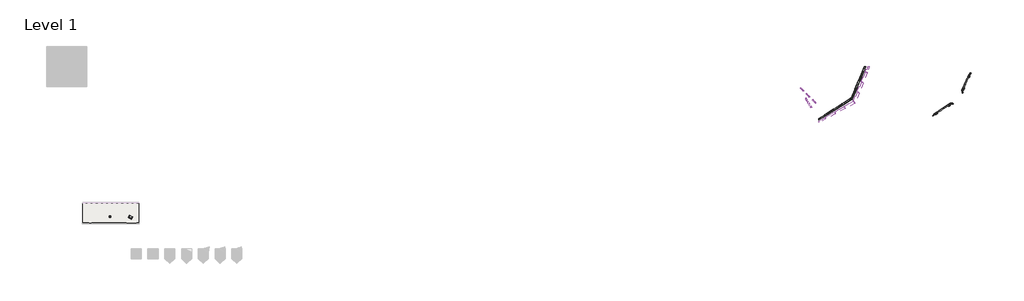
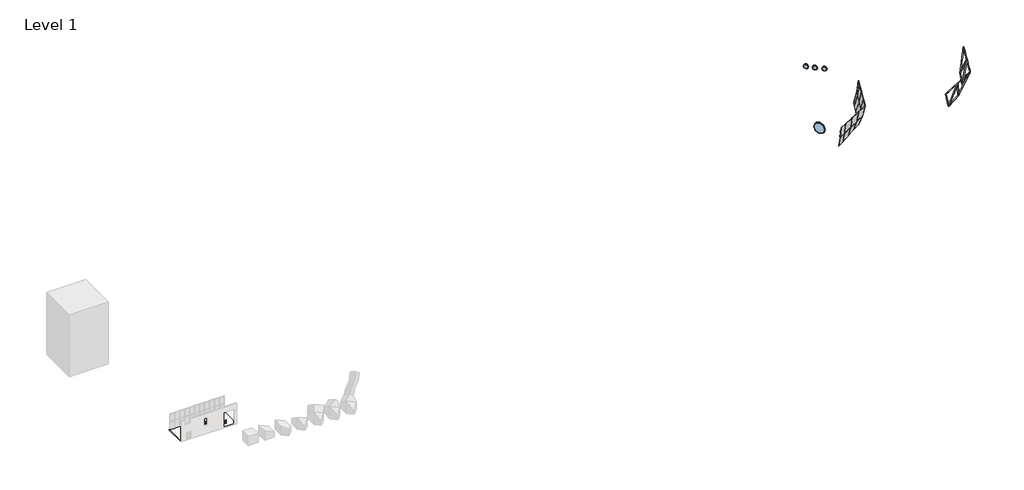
# One storey, part 2 of 4: 35 members, 22 plates, 4 windows, 1 column, 1 furniture element, 1 slab.
"""IFC4 building model written with IfcOpenShell, lengths in millimetres."""

from ifc_helpers import new_model, si_unit, frame, origin, place, context, project, spatial, polyline, outline, extrude, transform, mapped, element, save
from components import m_chair_corbu_m_chair_corbu_62085674, member_341614aa, member_344061e7, member_38109110, member_61e9d94c, member_fbba4340, member_93b0810e, member_5f5d3387, member_f945ca79, member_9f7c07c6, member_cb3cede5, member_bf563adc, member_e99998d1, member_17676bb0, member_bf03518d, member_ae2f6071, member_3d2d24fd, member_6859f3a6, member_6722c095, member_d45de604, member_b7ede9d4, member_d72a8ed7, member_6ad659f1, member_d7a9b0f7, member_4b4d288b, member_976408e0, member_74919046, member_02ef2633, member_beb84139, member_7a5e62d4, member_81e79d79, member_954ad604, plate_5d799b91, plate_c11bd94d, plate_bef25089, plate_08aad859, plate_9dba2533, plate_8823b085, empty_system_panel_empty_2eac9b77, empty_system_panel_empty_baff2e39, empty_system_panel_empty_6211d9ab, empty_system_panel_empty_50d8e2be, empty_system_panel_empty_04f20b65, empty_system_panel_empty_eceee1d3, empty_system_panel_empty_5d1490b2, empty_system_panel_empty_70719ecd, empty_system_panel_empty_48045b3f, empty_system_panel_empty_b1902880, empty_system_panel_empty_958377f4, empty_system_panel_empty_bac36427, empty_system_panel_empty_a2144f1a, empty_system_panel_empty_fe6205c0, empty_system_panel_empty_65ab245d, empty_system_panel_empty_3592ea86, window_8fa304ae, window_30c34dd4

model = new_model("IFC4")

# Units and contexts
model_context = context("Model", 3, world=origin())
ifc_project = project(units=[si_unit("LENGTHUNIT", "METRE", prefix="MILLI")], contexts=[model_context])

# Site, building, storey
site = spatial("IfcSite", under=ifc_project)
building = spatial("IfcBuilding", under=site)
storey = spatial("IfcBuildingStorey", under=building, Name="Level 1", Elevation=0.0)

# Column
placement = place(None, origin())
element("IfcColumn", 1, ObjectType="M_Rectangular Column : 457 x 475mm", at=placement, inside=storey, context=model_context, shape_type="SweptSolid", body=[
    extrude(outline(polyline([(-20612.6239276, -10809.3966791), (-20612.6239276, -11284.3966791), (-21087.6239276, -11284.3966791), (-21087.6239276, -10809.3966791), (-20612.6239276, -10809.3966791)])), frame((0.0, 0.0, 100.0), z_axis=(0.0, 0.0, 1.0), x_axis=(1.0, 0.0, 0.0)), (0.0, 0.0, 1.0), 2200.0),
])

# Furniture
m_chair_corbu_m_chair_corbu_shape = m_chair_corbu_m_chair_corbu_62085674(model_context)
element("IfcFurniture", 2, ObjectType="M_Chair-Corbu : M_Chair-Corbu", at=placement, inside=storey, context=model_context, shape_type="MappedRepresentation", body=[
    mapped(m_chair_corbu_m_chair_corbu_shape, transform((-14574.9821356, -11062.964087, 0.0), x_axis=(-0.8660254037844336, 0.5000000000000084, 0.0), y_axis=(-0.5000000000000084, -0.8660254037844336, 0.0), z_axis=(0.0, 0.0, 1.0))),
])

# Members
member_shape = member_341614aa(model_context)
element("IfcMember", 3, ObjectType="Circular Mullion : 2.5\" Circular", at=placement, inside=storey, context=model_context, shape_type="MappedRepresentation", body=[
    mapped(member_shape, transform((172238.3884749, 15717.4145289, 0.0), x_axis=(-0.1105504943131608, 0.17280172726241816, -0.9787329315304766), y_axis=(0.5274453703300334, -0.8244510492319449, -0.20513860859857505), z_axis=(-0.8423656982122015, -0.5389063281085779, 0.0))),
])
member_2_shape = member_344061e7(model_context)
element("IfcMember", 4, ObjectType="Circular Mullion : 2.5\" Circular", at=placement, inside=storey, context=model_context, shape_type="MappedRepresentation", body=[
    mapped(member_2_shape, transform((173871.5785222, 16762.2534312, 0.0), x_axis=(-0.128562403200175, 0.20095618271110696, -0.9711273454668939), y_axis=(0.5233466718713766, -0.8180443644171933, -0.23856168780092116), z_axis=(-0.8423656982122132, -0.5389063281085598, 0.0))),
])
element("IfcMember", 5, ObjectType="Circular Mullion : 2.5\" Circular", at=placement, inside=storey, context=model_context, shape_type="MappedRepresentation", body=[
    mapped(member_2_shape, transform((176252.0152033, 18285.1459159, 0.0), x_axis=(-0.14921123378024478, 0.23323241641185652, -0.9609051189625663), y_axis=(0.5178378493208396, -0.8094335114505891, -0.27687786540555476), z_axis=(-0.8423656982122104, -0.5389063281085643, 0.0))),
])
member_3_shape = member_38109110(model_context)
element("IfcMember", 6, ObjectType="Circular Mullion : 2.5\" Circular", at=placement, inside=storey, context=model_context, shape_type="MappedRepresentation", body=[
    mapped(member_3_shape, transform((178632.4518845, 19808.0384005, 0.0), x_axis=(-0.1691722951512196, 0.26443359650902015, -0.9494501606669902), y_axis=(0.511664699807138, -0.799784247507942, -0.3139178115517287), z_axis=(-0.8423656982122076, -0.5389063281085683, 0.0))),
])
member_4_shape = member_61e9d94c(model_context)
element("IfcMember", 7, ObjectType="Circular Mullion : 2.5\" Circular", at=placement, inside=storey, context=model_context, shape_type="MappedRepresentation", body=[
    mapped(member_4_shape, transform((172184.898253, 15013.3028697, 2937.9859427), x_axis=(-0.8606673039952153, -0.49642694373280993, -0.11319046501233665), y_axis=(0.5091677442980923, -0.8391310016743, -0.19133052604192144), z_axis=(0.0, -0.2223048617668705, 0.9749772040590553))),
])
member_5_shape = member_fbba4340(model_context)
element("IfcMember", 8, ObjectType="Circular Mullion : 2.5\" Circular", at=placement, inside=storey, context=model_context, shape_type="MappedRepresentation", body=[
    mapped(member_5_shape, transform((173936.7957639, 16030.1522303, 2937.9859427), x_axis=(0.0859744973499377, -0.14812273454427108, 0.9852248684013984), y_axis=(0.4945776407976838, -0.852092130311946, -0.17126575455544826), z_axis=(0.8648707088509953, 0.5019946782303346, 0.0))),
])
member_6_shape = member_93b0810e(model_context)
element("IfcMember", 9, ObjectType="Circular Mullion : 2.5\" Circular", at=placement, inside=storey, context=model_context, shape_type="MappedRepresentation", body=[
    mapped(member_6_shape, transform((176488.4900405, 17511.2255678, 2937.9859427), x_axis=(0.1043533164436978, -0.179787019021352, 0.9781549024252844), y_axis=(0.49102855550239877, -0.8459775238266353, -0.2078773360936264), z_axis=(0.8648707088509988, 0.5019946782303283, 0.0))),
])
element("IfcMember", 10, ObjectType="Circular Mullion : 2.5\" Circular", at=placement, inside=storey, context=model_context, shape_type="MappedRepresentation", body=[
    mapped(member_6_shape, transform((179040.184317, 18992.2989054, 2937.9859427), x_axis=(0.12230392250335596, -0.21071354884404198, 0.9698667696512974), y_axis=(0.4868679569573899, -0.8388093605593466, -0.24363589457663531), z_axis=(0.8648707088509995, 0.5019946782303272, 0.0))),
])
member_7_shape = member_5f5d3387(model_context)
element("IfcMember", 11, ObjectType="Circular Mullion : 2.5\" Circular", at=placement, inside=storey, context=model_context, shape_type="MappedRepresentation", body=[
    mapped(member_7_shape, transform((181564.4189486, 20457.4339119, 2937.9859427), x_axis=(0.1395842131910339, -0.24048521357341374, 0.9605639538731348), y_axis=(0.48219799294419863, -0.8307636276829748, -0.2780591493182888), z_axis=(0.8648707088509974, 0.5019946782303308, 0.0))),
])
member_8_shape = member_f945ca79(model_context)
element("IfcMember", 12, ObjectType="Circular Mullion : 2.5\" Circular", at=placement, inside=storey, context=model_context, shape_type="MappedRepresentation", body=[
    mapped(member_8_shape, transform((173844.8334113, 16745.1431553, 0.0), x_axis=(0.8519773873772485, 0.516101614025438, 0.08816833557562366), y_axis=(0.5220855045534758, -0.8247075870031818, -0.2174491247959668), z_axis=(-0.03951274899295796, 0.2312931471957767, -0.9720813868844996))),
])
member_9_shape = member_9f7c07c6(model_context)
element("IfcMember", 13, ObjectType="Circular Mullion : 2.5\" Circular", at=placement, inside=storey, context=model_context, shape_type="MappedRepresentation", body=[
    mapped(member_9_shape, transform((176225.2700924, 18268.03564, 0.0), x_axis=(0.8497096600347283, 0.5250313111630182, 0.04832821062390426), y_axis=(0.518530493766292, -0.8155363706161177, -0.2569563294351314), z_axis=(-0.0954967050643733, 0.24339792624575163, -0.9652138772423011))),
])
member_10_shape = member_cb3cede5(model_context)
element("IfcMember", 14, ObjectType="Circular Mullion : 2.5\" Circular", at=placement, inside=storey, context=model_context, shape_type="MappedRepresentation", body=[
    mapped(member_10_shape, transform((178605.7067736, 19790.9281246, 0.0), x_axis=(0.8443120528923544, 0.5357589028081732, 0.009977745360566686), y_axis=(0.5143686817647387, -0.8051022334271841, -0.2953561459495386), z_axis=(-0.1502065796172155, 0.2545049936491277, -0.9553351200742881))),
])
member_11_shape = member_bf563adc(model_context)
element("IfcMember", 15, ObjectType="Circular Mullion : 2.5\" Circular", at=placement, inside=storey, context=model_context, shape_type="MappedRepresentation", body=[
    mapped(member_11_shape, transform((173964.2554089, 16046.0905613, 2937.9859427), x_axis=(0.8677257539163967, 0.49531993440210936, 0.04135430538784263), y_axis=(0.4962648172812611, -0.8587081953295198, -0.12783374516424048), z_axis=(-0.02780732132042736, 0.13144731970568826, -0.990933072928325))),
])
member_12_shape = member_e99998d1(model_context)
element("IfcMember", 16, ObjectType="Circular Mullion : 2.5\" Circular", at=placement, inside=storey, context=model_context, shape_type="MappedRepresentation", body=[
    mapped(member_12_shape, transform((176515.9496855, 17527.1638989, 2937.9859427), x_axis=(0.8665001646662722, 0.49890802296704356, 0.016378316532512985), y_axis=(0.4946083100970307, -0.8536788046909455, -0.1630800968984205), z_axis=(-0.06738014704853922, 0.14940978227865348, -0.9864768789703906))),
])
member_13_shape = member_17676bb0(model_context)
element("IfcMember", 17, ObjectType="Circular Mullion : 2.5\" Circular", at=placement, inside=storey, context=model_context, shape_type="MappedRepresentation", body=[
    mapped(member_13_shape, transform((179067.643962, 19008.2372364, 2937.9859427), x_axis=(0.8638308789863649, 0.5037183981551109, -0.007999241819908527), y_axis=(0.4924180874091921, -0.8475924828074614, -0.19776604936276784), z_axis=(-0.10639849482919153, 0.16689744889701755, -0.9802166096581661))),
])
member_14_shape = member_bf03518d(model_context)
element("IfcMember", 18, ObjectType="Circular Mullion : 2.5\" Circular", at=placement, inside=storey, context=model_context, shape_type="MappedRepresentation", body=[
    mapped(member_14_shape, transform((181011.054414, 21372.2303183, 0.0), x_axis=(-0.26536946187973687, 0.11317652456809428, -0.9574811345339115), y_axis=(0.8807274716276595, -0.37561848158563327, -0.28849588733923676), z_axis=(-0.39229857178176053, -0.9198379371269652, 0.0))),
])
member_15_shape = member_ae2f6071(model_context)
element("IfcMember", 19, ObjectType="Circular Mullion : 2.5\" Circular", at=placement, inside=storey, context=model_context, shape_type="MappedRepresentation", body=[
    mapped(member_15_shape, transform((182024.8860559, 23749.4013639, 0.0), x_axis=(-0.2556015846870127, 0.10901065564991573, -0.9606167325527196), y_axis=(0.8836117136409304, -0.37684857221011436, -0.27787675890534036), z_axis=(-0.3922985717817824, -0.9198379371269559, 0.0))),
])
element("IfcMember", 20, ObjectType="Circular Mullion : 2.5\" Circular", at=placement, inside=storey, context=model_context, shape_type="MappedRepresentation", body=[
    mapped(member_15_shape, transform((183051.1731775, 26155.7772641, 0.0), x_axis=(-0.24573909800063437, 0.10480443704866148, -0.9636536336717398), y_axis=(0.886405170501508, -0.37803994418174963, -0.26715477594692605), z_axis=(-0.3922985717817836, -0.9198379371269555, 0.0))),
])
member_16_shape = member_3d2d24fd(model_context)
element("IfcMember", 21, ObjectType="Circular Mullion : 2.5\" Circular", at=placement, inside=storey, context=model_context, shape_type="MappedRepresentation", body=[
    mapped(member_16_shape, transform((184077.4602991, 28562.1531642, 0.0), x_axis=(-0.23791057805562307, 0.10146567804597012, -0.9659727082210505), y_axis=(0.8885383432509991, -0.3789497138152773, -0.2586440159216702), z_axis=(-0.3922985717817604, -0.9198379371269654, 0.0))),
])
member_17_shape = member_6859f3a6(model_context)
element("IfcMember", 22, ObjectType="Circular Mullion : 2.5\" Circular", at=placement, inside=storey, context=model_context, shape_type="MappedRepresentation", body=[
    mapped(member_17_shape, transform((184654.4719427, 29915.0951277, 0.0), x_axis=(0.358530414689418, 0.9278492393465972, -0.10272161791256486), y_axis=(0.8919621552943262, -0.372955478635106, -0.2555537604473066), z_axis=(-0.27542595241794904, 0.0, -0.9613222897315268))),
])
member_18_shape = member_6722c095(model_context)
element("IfcMember", 23, ObjectType="Circular Mullion : 2.5\" Circular", at=placement, inside=storey, context=model_context, shape_type="MappedRepresentation", body=[
    mapped(member_18_shape, transform((185493.7147017, 29915.0951277, 2929.2184111), x_axis=(0.3631381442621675, 0.9300438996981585, -0.05611624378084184), y_axis=(0.9191342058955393, -0.3674484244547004, -0.14203509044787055), z_axis=(-0.15271869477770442, 0.0, -0.9882697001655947))),
])
member_19_shape = member_d45de604(model_context)
element("IfcMember", 24, ObjectType="Circular Mullion : 2.5\" Circular", at=placement, inside=storey, context=model_context, shape_type="MappedRepresentation", body=[
    mapped(member_19_shape, transform((182690.0689792, 23098.4636522, 2929.2184111), x_axis=(0.21585912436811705, -0.08878175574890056, 0.9723798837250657), y_axis=(0.8992870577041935, -0.3698721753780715, -0.23340385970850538), z_axis=(0.38037826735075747, 0.924830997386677, 0.0))),
])
member_20_shape = member_b7ede9d4(model_context)
element("IfcMember", 25, ObjectType="Circular Mullion : 2.5\" Circular", at=placement, inside=storey, context=model_context, shape_type="MappedRepresentation", body=[
    mapped(member_20_shape, transform((183774.4392147, 25734.9423695, 2929.2184111), x_axis=(0.20434212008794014, -0.08404487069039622, 0.9752849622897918), y_axis=(0.9019737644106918, -0.37097720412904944, -0.22095076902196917), z_axis=(0.3803782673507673, 0.9248309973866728, 0.0))),
])
element("IfcMember", 26, ObjectType="Circular Mullion : 2.5\" Circular", at=placement, inside=storey, context=model_context, shape_type="MappedRepresentation", body=[
    mapped(member_20_shape, transform((184858.8094501, 28371.4210868, 2929.2184111), x_axis=(0.19272429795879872, -0.0792665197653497, 0.9780460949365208), y_axis=(0.9045273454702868, -0.37202747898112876, -0.2083886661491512), z_axis=(0.380378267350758, 0.9248309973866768, 0.0))),
])
member_21_shape = member_d72a8ed7(model_context)
element("IfcMember", 27, ObjectType="Circular Mullion : 2.5\" Circular", at=placement, inside=storey, context=model_context, shape_type="MappedRepresentation", body=[
    mapped(member_21_shape, transform((185469.5606817, 29856.3683594, 2929.2184111), x_axis=(0.18613813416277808, -0.07655766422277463, 0.9795363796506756), y_axis=(0.9059056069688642, -0.37259435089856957, -0.20126718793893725), z_axis=(0.3803782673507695, 0.9248309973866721, 0.0))),
])
member_22_shape = member_6ad659f1(model_context)
element("IfcMember", 28, ObjectType="Circular Mullion : 2.5\" Circular", at=placement, inside=storey, context=model_context, shape_type="MappedRepresentation", body=[
    mapped(member_22_shape, transform((182012.4305763, 23720.1965094, 0.0), x_axis=(0.41822218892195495, 0.904413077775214, 0.08442265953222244), y_axis=(0.8800683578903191, -0.38043991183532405, -0.2841569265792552), z_axis=(-0.22487749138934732, 0.1931384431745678, -0.9550537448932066))),
])
member_23_shape = member_d7a9b0f7(model_context)
element("IfcMember", 29, ObjectType="Circular Mullion : 2.5\" Circular", at=placement, inside=storey, context=model_context, shape_type="MappedRepresentation", body=[
    mapped(member_23_shape, transform((183038.7176978, 26126.5724096, 0.0), x_axis=(0.39616440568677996, 0.9180957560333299, 0.012407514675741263), y_axis=(0.8847230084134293, -0.37807956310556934, -0.2726188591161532), z_axis=(-0.24559918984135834, 0.1189791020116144, -0.9620421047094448))),
])
member_24_shape = member_4b4d288b(model_context)
element("IfcMember", 30, ObjectType="Circular Mullion : 2.5\" Circular", at=placement, inside=storey, context=model_context, shape_type="MappedRepresentation", body=[
    mapped(member_24_shape, transform((184065.0048194, 28532.9483097, 0.0), x_axis=(0.3730604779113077, 0.9258085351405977, -0.060864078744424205), y_axis=(0.8891538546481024, -0.37548586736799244, -0.2615641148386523), z_axis=(-0.2650118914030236, 0.04346170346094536, -0.9632651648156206))),
])
member_25_shape = member_976408e0(model_context)
element("IfcMember", 31, ObjectType="Circular Mullion : 2.5\" Circular", at=placement, inside=storey, context=model_context, shape_type="MappedRepresentation", body=[
    mapped(member_25_shape, transform((182702.1459892, 23127.8270363, 2929.2184111), x_axis=(0.39408623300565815, 0.9167216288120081, 0.06570765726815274), y_axis=(0.9071572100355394, -0.3765060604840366, -0.1879068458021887), z_axis=(-0.1475189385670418, 0.13365867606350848, -0.979986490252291))),
])
member_26_shape = member_74919046(model_context)
element("IfcMember", 32, ObjectType="Circular Mullion : 2.5\" Circular", at=placement, inside=storey, context=model_context, shape_type="MappedRepresentation", body=[
    mapped(member_26_shape, transform((183786.5162247, 25764.3057536, 2929.2184111), x_axis=(0.38419578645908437, 0.9230650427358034, 0.0185613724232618), y_axis=(0.9110100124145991, -0.3757619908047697, -0.1698931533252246), z_axis=(-0.14984777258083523, 0.0821818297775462, -0.9852876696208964))),
])
member_27_shape = member_02ef2633(model_context)
element("IfcMember", 33, ObjectType="Circular Mullion : 2.5\" Circular", at=placement, inside=storey, context=model_context, shape_type="MappedRepresentation", body=[
    mapped(member_27_shape, transform((184870.8864601, 28400.7844709, 2929.2184111), x_axis=(0.3744327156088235, 0.9267902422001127, -0.02932555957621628), y_axis=(0.914746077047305, -0.37437421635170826, -0.15193275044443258), z_axis=(-0.15178852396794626, 0.03006315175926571, -0.9879556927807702))),
])
member_28_shape = member_beb84139(model_context)
element("IfcMember", 34, ObjectType="Circular Mullion : 2.5\" Circular", at=placement, inside=storey, context=model_context, shape_type="MappedRepresentation", body=[
    mapped(member_28_shape, transform((180986.1434547, 21313.8206093, 0.0), x_axis=(0.8476464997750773, 0.5294646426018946, -0.034096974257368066), y_axis=(0.4901174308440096, -0.8060231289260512, -0.3318307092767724), z_axis=(-0.2031755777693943, 0.2645636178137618, -0.9427225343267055))),
])
member_29_shape = member_7a5e62d4(model_context)
element("IfcMember", 35, ObjectType="Circular Mullion : 2.5\" Circular", at=placement, inside=storey, context=model_context, shape_type="MappedRepresentation", body=[
    mapped(member_29_shape, transform((181619.3382386, 20489.3105739, 2937.9859427), x_axis=(0.8694599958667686, 0.49267423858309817, -0.03621339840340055), y_axis=(0.4723481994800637, -0.8505758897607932, -0.2311013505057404), z_axis=(-0.14465992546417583, 0.1838280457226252, -0.9722554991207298))),
])
member_30_shape = member_81e79d79(model_context)
element("IfcMember", 36, ObjectType="Circular Mullion : 2.5\" Circular", at=placement, inside=storey, context=model_context, shape_type="MappedRepresentation", body=[
    mapped(member_30_shape, transform((181617.7757537, 20491.348319, 2929.2184111), x_axis=(-0.4248461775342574, -0.8912572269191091, -0.1586388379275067), y_axis=(0.8821492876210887, -0.3682426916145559, -0.29361531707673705), z_axis=(0.20326918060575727, -0.2646844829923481, 0.9426684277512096))),
])
member_31_shape = member_954ad604(model_context)
element("IfcMember", 37, ObjectType="Circular Mullion : 2.5\" Circular", at=placement, inside=storey, context=model_context, shape_type="MappedRepresentation", body=[
    mapped(member_31_shape, transform((182064.7660831, 19923.1735671, 5929.5983933), x_axis=(-0.3902073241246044, -0.9135343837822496, -0.11486154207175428), y_axis=(0.9092643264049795, -0.3627153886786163, -0.20414683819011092), z_axis=(0.14483310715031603, -0.18409909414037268, 0.9721784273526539))),
])

# Plates
plate_shape = plate_5d799b91(model_context)
element("IfcPlate", 38, ObjectType="tn_cpanel_patbase_triangle_flat_seamless_frame_02_cylinder : tn_triangle_seamless_frame_t8\"xh8\"", at=placement, inside=storey, context=model_context, shape_type="MappedRepresentation", body=[
    mapped(plate_shape, transform((208621.7516918, 18049.6394347, -1614.2545778), x_axis=(0.38306687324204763, 0.9194004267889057, 0.08923354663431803), y_axis=(0.18714800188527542, -0.17184616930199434, 0.9671838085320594), z_axis=(0.9045636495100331, -0.3537961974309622, -0.2378925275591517))),
])
plate_2_shape = plate_c11bd94d(model_context)
element("IfcPlate", 39, ObjectType="tn_cpanel_patbase_triangle_flat_seamless_frame_02_cylinder : tn_triangle_seamless_frame_t8\"xh8\"", at=placement, inside=storey, context=model_context, shape_type="MappedRepresentation", body=[
    mapped(plate_2_shape, transform((210566.818884, 22144.5557949, -985.4662727), x_axis=(0.3597445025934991, 0.9328021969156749, -0.02153959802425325), y_axis=(0.20839291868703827, -0.0578240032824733, 0.9763343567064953), z_axis=(0.9094813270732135, -0.35571961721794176, -0.21519123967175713))),
])
plate_3_shape = plate_bef25089(model_context)
element("IfcPlate", 40, ObjectType="tn_cpanel_patbase_triangle_flat_seamless_frame_02_cylinder : tn_triangle_seamless_frame_t8\"xh8\"", at=placement, inside=storey, context=model_context, shape_type="MappedRepresentation", body=[
    mapped(plate_3_shape, transform((215904.8691286, 30390.783422, 7034.6478302), x_axis=(-0.39807537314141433, -0.91693695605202, -0.027615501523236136), y_axis=(-0.19805583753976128, 0.11529875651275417, -0.9733858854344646), z_axis=(0.8957175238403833, -0.3820115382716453, -0.22750231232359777))),
])
plate_4_shape = plate_08aad859(model_context)
element("IfcPlate", 41, ObjectType="tn_cpanel_patbase_triangle_flat_seamless_frame_02_cylinder : tn_triangle_seamless_frame_t8\"xh8\"", at=placement, inside=storey, context=model_context, shape_type="MappedRepresentation", body=[
    mapped(plate_4_shape, transform((198200.1874984, 14479.5139024, -1403.426012), x_axis=(0.884993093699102, 0.46314617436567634, 0.04777913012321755), y_axis=(0.044915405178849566, -0.18706078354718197, 0.9813209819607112), z_axis=(0.46343266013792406, -0.866316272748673, -0.1863498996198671))),
])
plate_5_shape = plate_9dba2533(model_context)
element("IfcPlate", 42, ObjectType="tn_cpanel_patbase_triangle_flat_seamless_frame_02_cylinder : tn_triangle_seamless_frame_t8\"xh8\"", at=placement, inside=storey, context=model_context, shape_type="MappedRepresentation", body=[
    mapped(plate_5_shape, transform((202540.6214074, 17239.7323756, -947.3376425), x_axis=(0.8797162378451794, 0.4752382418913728, -0.01574656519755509), y_axis=(0.13288560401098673, -0.21391914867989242, 0.967770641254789), z_axis=(0.456553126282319, -0.8534560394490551, -0.25134046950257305))),
])
plate_6_shape = plate_8823b085(model_context)
element("IfcPlate", 43, ObjectType="tn_cpanel_patbase_triangle_flat_seamless_frame_02_cylinder : tn_triangle_seamless_frame_t8\"xh8\"", at=placement, inside=storey, context=model_context, shape_type="MappedRepresentation", body=[
    mapped(plate_6_shape, transform((211633.0703001, 20326.4137183, 7088.5631277), x_axis=(-0.8457718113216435, -0.5325723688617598, -0.03219806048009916), y_axis=(-0.08930283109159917, 0.2008003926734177, -0.9755532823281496), z_axis=(0.5260181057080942, -0.8222200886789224, -0.21739153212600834))),
])
empty_system_panel_empty_shape = empty_system_panel_empty_2eac9b77(model_context)
element("IfcPlate", 44, ObjectType="Empty System Panel : Empty", at=placement, inside=storey, context=model_context, shape_type="MappedRepresentation", body=[
    mapped(empty_system_panel_empty_shape, transform((181423.9771667, 22289.9744122, 60.3562788), x_axis=(0.38660728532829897, 0.9222425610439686, 0.0018615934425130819), y_axis=(-0.8832405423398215, 0.3696751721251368, 0.2884898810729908), z_axis=(0.2653694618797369, -0.1131765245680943, 0.9574811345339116))),
])
empty_system_panel_empty_2_shape = empty_system_panel_empty_baff2e39(model_context)
element("IfcPlate", 45, ObjectType="Empty System Panel : Empty", at=placement, inside=storey, context=model_context, shape_type="MappedRepresentation", body=[
    mapped(empty_system_panel_empty_2_shape, transform((172880.2058817, 16116.7234786, 62.8854335), x_axis=(0.853568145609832, 0.5209623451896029, -0.004433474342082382), y_axis=(-0.5091168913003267, 0.8359053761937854, 0.20509069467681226), z_axis=(0.1105504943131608, -0.17280172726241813, 0.9787329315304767))),
])
empty_system_panel_empty_3_shape = empty_system_panel_empty_6211d9ab(model_context)
element("IfcPlate", 46, ObjectType="Empty System Panel : Empty", at=placement, inside=storey, context=model_context, shape_type="MappedRepresentation", body=[
    mapped(empty_system_panel_empty_3_shape, transform((182489.1800093, 24790.9127237, 60.7542675), x_axis=(0.3865699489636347, 0.9222583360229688, 0.0017989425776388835), y_axis=(-0.8861328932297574, 0.3708857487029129, 0.2778709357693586), z_axis=(0.25560158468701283, -0.10901065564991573, 0.9606167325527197))),
])
empty_system_panel_empty_4_shape = empty_system_panel_empty_50d8e2be(model_context)
element("IfcPlate", 47, ObjectType="Empty System Panel : Empty", at=placement, inside=storey, context=model_context, shape_type="MappedRepresentation", body=[
    mapped(empty_system_panel_empty_4_shape, transform((183597.0432875, 27393.6777533, 61.3247679), x_axis=(0.3865336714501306, 0.9222736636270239, 0.0017349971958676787), y_axis=(-0.8889342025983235, 0.3720582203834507, 0.26714914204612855), z_axis=(0.24573909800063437, -0.10480443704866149, 0.96365363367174))),
])
empty_system_panel_empty_5_shape = empty_system_panel_empty_04f20b65(model_context)
element("IfcPlate", 48, ObjectType="Empty System Panel : Empty", at=placement, inside=storey, context=model_context, shape_type="MappedRepresentation", body=[
    mapped(empty_system_panel_empty_5_shape, transform((184432.4135464, 29354.9477878, 61.5900545), x_axis=(0.3865058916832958, 0.9222854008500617, 0.0016837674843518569), y_axis=(-0.8910733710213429, 0.3729535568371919, 0.25863853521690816), z_axis=(0.23791057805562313, -0.10146567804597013, 0.9659727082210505))),
])
empty_system_panel_empty_6_shape = empty_system_panel_empty_eceee1d3(model_context)
element("IfcPlate", 49, ObjectType="Empty System Panel : Empty", at=placement, inside=storey, context=model_context, shape_type="MappedRepresentation", body=[
    mapped(empty_system_panel_empty_6_shape, transform((182105.8363514, 21657.7503606, 2960.0579286), x_axis=(0.3718249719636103, 0.928301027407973, 0.001841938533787), y_axis=(-0.9104891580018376, 0.3643022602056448, 0.19568688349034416), z_axis=(0.1809853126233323, -0.07443833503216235, 0.9806646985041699))),
])
empty_system_panel_empty_7_shape = empty_system_panel_empty_5d1490b2(model_context)
element("IfcPlate", 50, ObjectType="Empty System Panel : Empty", at=placement, inside=storey, context=model_context, shape_type="MappedRepresentation", body=[
    mapped(empty_system_panel_empty_7_shape, transform((183211.4084338, 24348.6209283, 2960.2860997), x_axis=(0.37176744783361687, 0.9283243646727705, 0.001684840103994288), y_axis=(-0.913545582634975, 0.3655251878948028, 0.178397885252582), z_axis=(0.16499525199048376, -0.06786170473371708, 0.9839569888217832))),
])
empty_system_panel_empty_8_shape = empty_system_panel_empty_70719ecd(model_context)
element("IfcPlate", 51, ObjectType="Empty System Panel : Empty", at=placement, inside=storey, context=model_context, shape_type="MappedRepresentation", body=[
    mapped(empty_system_panel_empty_8_shape, transform((184339.5016977, 27095.7717943, 2960.5793906), x_axis=(0.37171476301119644, 0.9283457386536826, 0.0015246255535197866), y_axis=(-0.9163359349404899, 0.3666416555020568, 0.16094207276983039), z_axis=(0.1488508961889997, -0.061221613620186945, 0.9869626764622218))),
])
empty_system_panel_empty_9_shape = empty_system_panel_empty_48045b3f(model_context)
element("IfcPlate", 52, ObjectType="Empty System Panel : Empty", at=placement, inside=storey, context=model_context, shape_type="MappedRepresentation", body=[
    mapped(empty_system_panel_empty_9_shape, transform((185213.3409388, 29222.9060564, 2960.7234209), x_axis=(0.3716768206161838, 0.928361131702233, 0.0013964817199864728), y_axis=(-0.9183402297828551, 0.3674436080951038, 0.1470932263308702), z_axis=(0.13604250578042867, -0.0559535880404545, 0.9891216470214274))),
])
empty_system_panel_empty_10_shape = empty_system_panel_empty_b1902880(model_context)
element("IfcPlate", 53, ObjectType="Empty System Panel : Empty", at=placement, inside=storey, context=model_context, shape_type="MappedRepresentation", body=[
    mapped(empty_system_panel_empty_10_shape, transform((174924.721584, 17421.454484, 62.3769113), x_axis=(0.8533947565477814, 0.5212400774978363, -0.005115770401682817), y_axis=(-0.5051624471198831, 0.8294126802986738, 0.2385068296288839), z_axis=(0.128562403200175, -0.20095618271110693, 0.9711273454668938))),
])
empty_system_panel_empty_11_shape = empty_system_panel_empty_958377f4(model_context)
element("IfcPlate", 54, ObjectType="Empty System Panel : Empty", at=placement, inside=storey, context=model_context, shape_type="MappedRepresentation", body=[
    mapped(empty_system_panel_empty_11_shape, transform((177358.96608, 18974.3220109, 61.471938), x_axis=(0.8531638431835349, 0.5216099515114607, -0.005874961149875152), y_axis=(-0.49984744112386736, 0.8206861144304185, 0.27681552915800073), z_axis=(0.14921123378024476, -0.23323241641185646, 0.9609051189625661))),
])
empty_system_panel_empty_12_shape = empty_system_panel_empty_bac36427(model_context)
element("IfcPlate", 55, ObjectType="Empty System Panel : Empty", at=placement, inside=storey, context=model_context, shape_type="MappedRepresentation", body=[
    mapped(empty_system_panel_empty_12_shape, transform((179816.9058654, 20541.8491609, 60.2110805), x_axis=(0.8529079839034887, 0.5220197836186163, -0.006581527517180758), y_axis=(-0.49389139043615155, 0.8109070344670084, 0.3138488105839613), z_axis=(0.16917229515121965, -0.26443359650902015, 0.9494501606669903))),
])
empty_system_panel_empty_13_shape = empty_system_panel_empty_a2144f1a(model_context)
element("IfcPlate", 56, ObjectType="Empty System Panel : Empty", at=placement, inside=storey, context=model_context, shape_type="MappedRepresentation", body=[
    mapped(empty_system_panel_empty_13_shape, transform((173011.5116469, 15490.3776883, 2969.6779076), x_axis=(0.8738031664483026, 0.4862751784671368, -0.0021159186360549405), y_axis=(-0.4827659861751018, 0.8680031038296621, 0.11622226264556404), z_axis=(0.0583526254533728, -0.10053388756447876, 0.9932209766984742))),
])
empty_system_panel_empty_14_shape = empty_system_panel_empty_fe6205c0(model_context)
element("IfcPlate", 57, ObjectType="Empty System Panel : Empty", at=placement, inside=storey, context=model_context, shape_type="MappedRepresentation", body=[
    mapped(empty_system_panel_empty_14_shape, transform((175186.8204937, 16751.6607586, 2969.5641763), x_axis=(0.873732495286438, 0.4863995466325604, -0.00264720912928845), y_axis=(-0.4808527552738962, 0.8645631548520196, 0.14598348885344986), z_axis=(0.07329498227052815, -0.12627760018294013, 0.9892834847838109))),
])
empty_system_panel_empty_15_shape = empty_system_panel_empty_65ab245d(model_context)
element("IfcPlate", 58, ObjectType="Empty System Panel : Empty", at=placement, inside=storey, context=model_context, shape_type="MappedRepresentation", body=[
    mapped(empty_system_panel_empty_15_shape, transform((177783.5678988, 18256.5559024, 2969.2554), x_axis=(0.873630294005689, 0.4865794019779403, -0.0032549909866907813), y_axis=(-0.47807237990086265, 0.8595640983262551, 0.18054462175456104), z_axis=(0.09064716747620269, -0.15617312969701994, 0.9835614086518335))),
])
empty_system_panel_empty_16_shape = empty_system_panel_empty_3592ea86(model_context)
element("IfcPlate", 59, ObjectType="Empty System Panel : Empty", at=placement, inside=storey, context=model_context, shape_type="MappedRepresentation", body=[
    mapped(empty_system_panel_empty_16_shape, transform((180377.3986817, 19759.875318, 2968.8630284), x_axis=(0.8735090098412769, 0.48679283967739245, -0.0038393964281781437), y_axis=(-0.47475171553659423, 0.8535936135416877, 0.21444988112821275), z_axis=(0.10766995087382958, -0.185501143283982, 0.9767274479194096))),
])

# Slab
element("IfcSlab", 60, ObjectType="Generic 150mm", at=placement, inside=storey, context=model_context, shape_type="SweptSolid", body=[
    extrude(outline(polyline([(-13000.1239276, -7146.8966791), (-13000.1239276, -12696.8966791), (-28300.1239276, -12696.8966791), (-28300.1239276, -7146.8966791), (-13000.1239276, -7146.8966791)])), frame((0.0, 0.0, -50.0), z_axis=(0.0, 0.0, 1.0), x_axis=(1.0, 0.0, 0.0)), (0.0, 0.0, 1.0), 150.0),
])

# Windows
window_shape = window_8fa304ae(model_context)
element("IfcWindow", 61, ObjectType="Round with Trim : 120\" Diameter", at=placement, inside=storey, context=model_context, shape_type="MappedRepresentation", body=[
    mapped(window_shape, transform((169875.3352062, 19133.4652891, 1767.3618247), x_axis=(-0.5087402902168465, 0.8609200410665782, 0.0), y_axis=(-0.8609200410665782, -0.5087402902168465, 0.0), z_axis=(0.0, 0.0, 1.0))),
])
window_2_shape = window_30c34dd4(model_context)
element("IfcWindow", 62, ObjectType="Round with Trim : 48\" Diameter", at=placement, inside=storey, context=model_context, shape_type="MappedRepresentation", body=[
    mapped(window_2_shape, transform((171033.2140763, 20313.6161596, 19292.5181821), x_axis=(-0.6807857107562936, 0.7324826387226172, 0.0), y_axis=(-0.7324826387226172, -0.6807857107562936, 0.0), z_axis=(0.0, 0.0, 1.0))),
])
element("IfcWindow", 63, ObjectType="Round with Trim : 48\" Diameter", at=placement, inside=storey, context=model_context, shape_type="MappedRepresentation", body=[
    mapped(window_2_shape, transform((169323.5525372, 21967.3678836, 19239.7807971), x_axis=(-0.6782980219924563, 0.734786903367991, 0.0), y_axis=(-0.734786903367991, -0.6782980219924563, 0.0), z_axis=(0.0, 0.0, 1.0))),
])
element("IfcWindow", 64, ObjectType="Round with Trim : 48\" Diameter", at=placement, inside=storey, context=model_context, shape_type="MappedRepresentation", body=[
    mapped(window_2_shape, transform((167725.7094933, 23542.6537214, 19177.1327177), x_axis=(-0.6753737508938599, 0.7374756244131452, 0.0), y_axis=(-0.7374756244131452, -0.6753737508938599, 0.0), z_axis=(0.0, 0.0, 1.0))),
])

save(model, "model.ifc")
